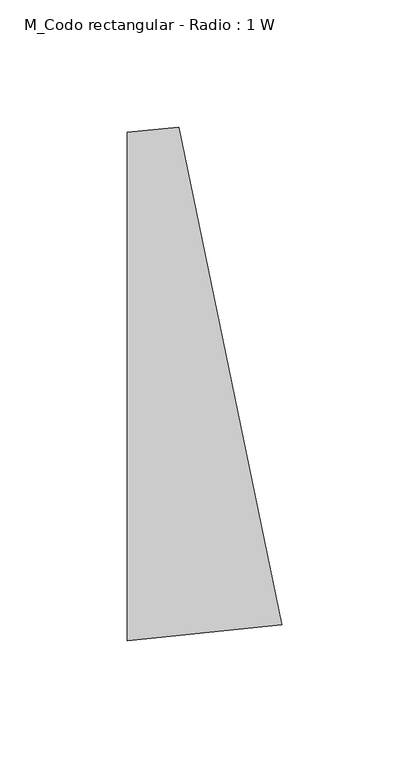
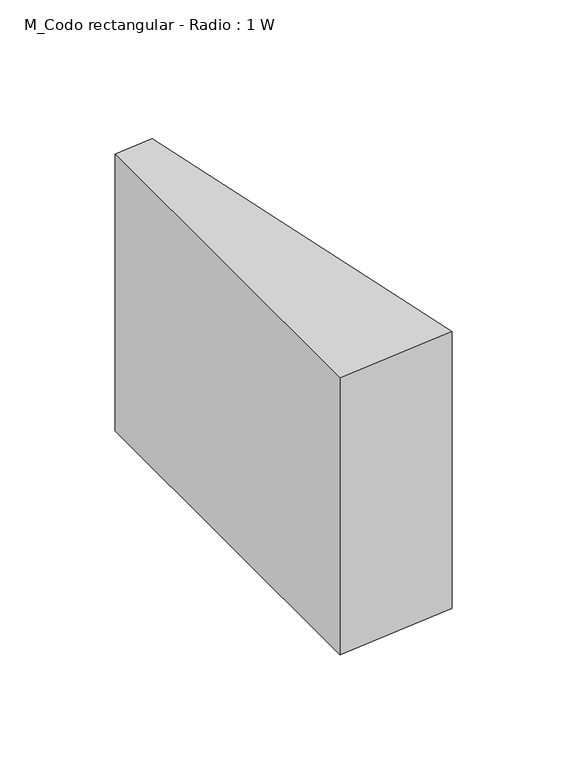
"""IFC4 building model written with IfcOpenShell, lengths in millimetres: duct fitting geometry, M_Codo rectangular - Radio : 1 W."""

from ifc_helpers import new_model, si_unit, point, frame, frame_2d, origin, place, context, project, spatial, polyline, circle_curve, trimmed, segment, composite_curve, outline, extrude, source, transform, mapped, element, save


def m_codo_rectangular_radio_1_w_c63d5222(model_context):
    return source(origin(), model_context, "Body", "SweptSolid", [
        extrude(outline(composite_curve([segment(trimmed(circle_curve(frame_2d((-20.5061765, 200.0)), 300.0), [point((40.3723625, -93.7580697))], [point((-20.5061765, -100.0))], False, "CARTESIAN"), True, "CONTINUOUS"), segment(polyline([(-20.5061765, -100.0), (-20.5061765, 100.0)]), True, "CONTINUOUS"), segment(trimmed(circle_curve(frame_2d((-20.5061765, 200.0)), 100.0), [point((-20.5061765, 100.0))], [point((-0.2133302, 102.0806434))], True, "CARTESIAN"), True, "CONTINUOUS"), segment(polyline([(-0.2133302, 102.0806434), (40.3723625, -93.7580697)]), True, "CONTINUOUS")], self_intersect=False)), frame((0.0, 0.0, -75.0), z_axis=(0.0, 0.0, 1.0), x_axis=(1.0, 0.0, 0.0)), (0.0, 0.0, 1.0), 150.0),
    ])


if __name__ == "__main__":
    model = new_model("IFC4")
    model_context = context("Model", 3, world=origin())
    ifc_project = project(units=[si_unit("LENGTHUNIT", "METRE", prefix="MILLI")], contexts=[model_context])
    site = spatial("IfcSite", under=ifc_project)
    building = spatial("IfcBuilding", under=site)
    placement = place(None, origin())
    m_codo_rectangular_radio_1_w_shape = m_codo_rectangular_radio_1_w_c63d5222(model_context)
    element("IfcDuctFitting", 1, ObjectType="M_Codo rectangular - Radio : 1 W", at=placement, inside=building, context=model_context, shape_type="MappedRepresentation", body=[
        mapped(m_codo_rectangular_radio_1_w_shape, transform((0.0, 0.0, 0.0), x_axis=(1.0, 0.0, 0.0), y_axis=(0.0, 1.0, 0.0), z_axis=(0.0, 0.0, 1.0))),
    ])
    save(model, "model.ifc")
